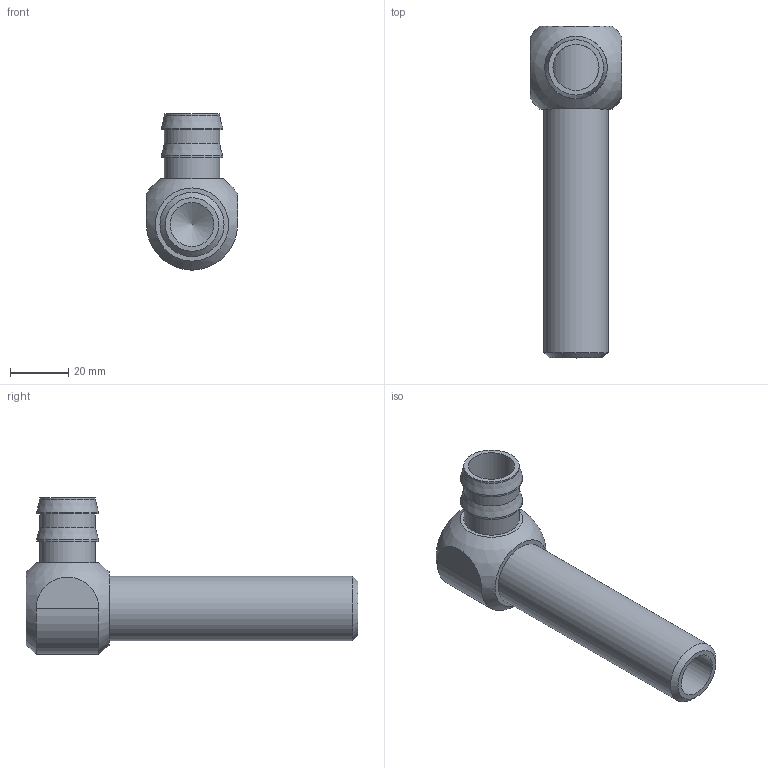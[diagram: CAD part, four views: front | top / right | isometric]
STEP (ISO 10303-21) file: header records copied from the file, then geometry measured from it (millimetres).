
FILE_DESCRIPTION(/* description */ (''),/* implementation_level */ '2;1');
FILE_NAME(/* name */ 'C:/Users/drich/Desktop/WJ50-L v1.step',/* time_stamp */ '2019-12-29T15:38:19-06:00',/* author */ (''),/* organization */ (''),/* preprocessor_version */ 'ST-DEVELOPER v18',/* originating_system */ 'Autodesk Translation Framework v8.12.0.6',/* authorisation */ '');
FILE_SCHEMA (('AUTOMOTIVE_DESIGN { 1 0 10303 214 3 1 1 }'));
Length unit declared in the file: inch
Products named in the file (2): WJ50-L; WJ50-L SHAFT
Assembly tree (1 placements, depth 2):
  WJ50-L
    WJ50-L SHAFT
Bounding box: 31.39 x 114.3 x 53.8 mm (x, y, z)
Volume: 49530.7 mm3; surface area: 18361.2 mm2
Topology: 2 solids, 2 shells, 34 faces, 84 edges, 61 vertices
Faces by surface type: plane 18, cylinder 11, cone 4, sphere 1
Full cylindrical faces by diameter (mm): 15.062 x1, 15.85 x1, 19.05 x3, 21.336 x3, 21.463 x1, 22.095 x1
Entity records: 1159 total; most frequent: CARTESIAN_POINT 223, DIRECTION 202, ORIENTED_EDGE 166, AXIS2_PLACEMENT_3D 84, EDGE_CURVE 83, VERTEX_POINT 61, CIRCLE 47, EDGE_LOOP 46
